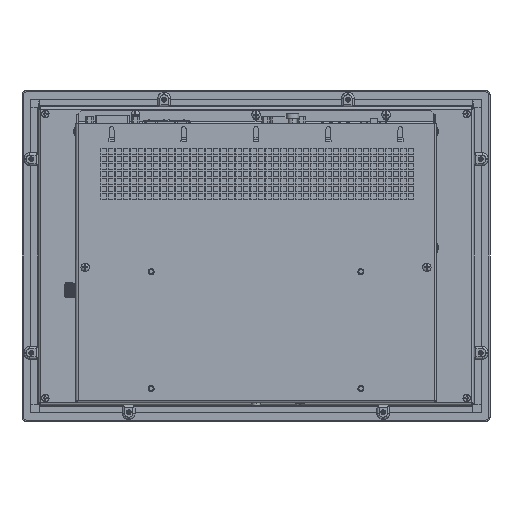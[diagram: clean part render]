
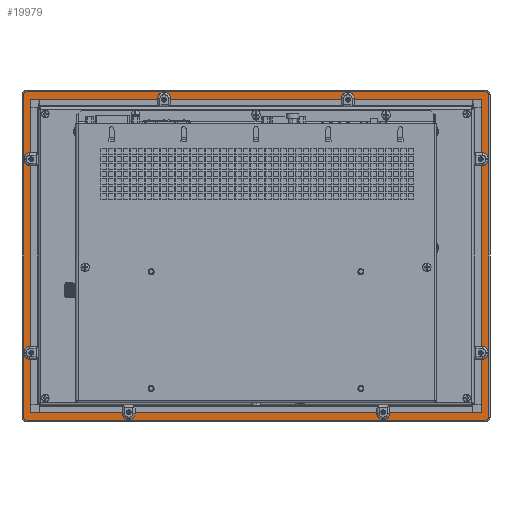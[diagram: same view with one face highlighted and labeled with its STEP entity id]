
A CAD part, front view. The second image highlights one B-rep face of the part: STEP entity #19979.
In plain terms, the highlighted planar face has unit normal (0, -1, 0).
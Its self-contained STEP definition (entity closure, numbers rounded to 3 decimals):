
#17958=CARTESIAN_POINT('',(162.5,0.5,-109.));
#17959=DIRECTION('',(0.,1.,0.));
#17960=DIRECTION('',(1.,0.,0.));
#17961=AXIS2_PLACEMENT_3D('',#17958,#17959,#17960);
#17963=DIRECTION('',(-1.,0.,0.));
#17964=VECTOR('',#17963,325.);
#17965=CARTESIAN_POINT('',(162.5,0.5,-111.));
#17966=LINE('',#17965,#17964);
#17967=CARTESIAN_POINT('',(-162.5,0.5,-109.));
#17968=DIRECTION('',(0.,1.,0.));
#17969=DIRECTION('',(0.,0.,-1.));
#17970=AXIS2_PLACEMENT_3D('',#17967,#17968,#17969);
#17972=DIRECTION('',(0.,0.,1.));
#17973=VECTOR('',#17972,228.);
#17974=CARTESIAN_POINT('',(-164.5,0.5,-109.));
#17975=LINE('',#17974,#17973);
#17976=CARTESIAN_POINT('',(-162.5,0.5,119.));
#17977=DIRECTION('',(0.,1.,0.));
#17978=DIRECTION('',(-1.,0.,0.));
#17979=AXIS2_PLACEMENT_3D('',#17976,#17977,#17978);
#17981=DIRECTION('',(1.,0.,0.));
#17982=VECTOR('',#17981,325.);
#17983=CARTESIAN_POINT('',(-162.5,0.5,121.));
#17984=LINE('',#17983,#17982);
#17985=CARTESIAN_POINT('',(162.5,0.5,119.));
#17986=DIRECTION('',(0.,1.,0.));
#17987=DIRECTION('',(0.,0.,1.));
#17988=AXIS2_PLACEMENT_3D('',#17985,#17986,#17987);
#17990=DIRECTION('',(0.,0.,-1.));
#17991=VECTOR('',#17990,228.);
#17992=CARTESIAN_POINT('',(164.5,0.5,119.));
#17993=LINE('',#17992,#17991);
#17994=CARTESIAN_POINT('',(158.5,0.5,-105.));
#17995=DIRECTION('',(0.,-1.,0.));
#17996=DIRECTION('',(0.,0.,-1.));
#17997=AXIS2_PLACEMENT_3D('',#17994,#17995,#17996);
#17999=DIRECTION('',(0.,0.,1.));
#18000=VECTOR('',#17999,220.);
#18001=CARTESIAN_POINT('',(159.5,0.5,-105.));
#18002=LINE('',#18001,#18000);
#18003=CARTESIAN_POINT('',(158.5,0.5,115.));
#18004=DIRECTION('',(0.,-1.,0.));
#18005=DIRECTION('',(1.,0.,0.));
#18006=AXIS2_PLACEMENT_3D('',#18003,#18004,#18005);
#18008=DIRECTION('',(-1.,0.,0.));
#18009=VECTOR('',#18008,317.);
#18010=CARTESIAN_POINT('',(158.5,0.5,116.));
#18011=LINE('',#18010,#18009);
#18012=CARTESIAN_POINT('',(-158.5,0.5,115.));
#18013=DIRECTION('',(0.,-1.,0.));
#18014=DIRECTION('',(0.,0.,1.));
#18015=AXIS2_PLACEMENT_3D('',#18012,#18013,#18014);
#18017=DIRECTION('',(0.,0.,-1.));
#18018=VECTOR('',#18017,220.);
#18019=CARTESIAN_POINT('',(-159.5,0.5,115.));
#18020=LINE('',#18019,#18018);
#18021=CARTESIAN_POINT('',(-158.5,0.5,-105.));
#18022=DIRECTION('',(0.,-1.,0.));
#18023=DIRECTION('',(-1.,0.,0.));
#18024=AXIS2_PLACEMENT_3D('',#18021,#18022,#18023);
#18026=DIRECTION('',(1.,0.,0.));
#18027=VECTOR('',#18026,317.);
#18028=CARTESIAN_POINT('',(-158.5,0.5,-106.));
#18029=LINE('',#18028,#18027);
#18953=CARTESIAN_POINT('',(164.5,0.5,-109.));
#18954=CARTESIAN_POINT('',(162.5,0.5,-111.));
#18955=VERTEX_POINT('',#18953);
#18956=VERTEX_POINT('',#18954);
#18957=CARTESIAN_POINT('',(164.5,0.5,119.));
#18958=VERTEX_POINT('',#18957);
#18959=CARTESIAN_POINT('',(162.5,0.5,121.));
#18960=VERTEX_POINT('',#18959);
#18961=CARTESIAN_POINT('',(-162.5,0.5,121.));
#18962=VERTEX_POINT('',#18961);
#18963=CARTESIAN_POINT('',(-164.5,0.5,119.));
#18964=VERTEX_POINT('',#18963);
#18965=CARTESIAN_POINT('',(-164.5,0.5,-109.));
#18966=VERTEX_POINT('',#18965);
#18967=CARTESIAN_POINT('',(-162.5,0.5,-111.));
#18968=VERTEX_POINT('',#18967);
#19095=CARTESIAN_POINT('',(158.5,0.5,-106.));
#19096=CARTESIAN_POINT('',(159.5,0.5,-105.));
#19097=VERTEX_POINT('',#19095);
#19098=VERTEX_POINT('',#19096);
#19099=CARTESIAN_POINT('',(159.5,0.5,115.));
#19100=VERTEX_POINT('',#19099);
#19101=CARTESIAN_POINT('',(158.5,0.5,116.));
#19102=VERTEX_POINT('',#19101);
#19103=CARTESIAN_POINT('',(-158.5,0.5,116.));
#19104=VERTEX_POINT('',#19103);
#19105=CARTESIAN_POINT('',(-159.5,0.5,115.));
#19106=VERTEX_POINT('',#19105);
#19107=CARTESIAN_POINT('',(-159.5,0.5,-105.));
#19108=VERTEX_POINT('',#19107);
#19109=CARTESIAN_POINT('',(-158.5,0.5,-106.));
#19110=VERTEX_POINT('',#19109);
#19942=CARTESIAN_POINT('',(0.,0.5,0.));
#19943=DIRECTION('',(0.,-1.,0.));
#19944=DIRECTION('',(-1.,0.,0.));
#19945=AXIS2_PLACEMENT_3D('',#19942,#19943,#19944);
#19946=PLANE('',#19945);
#19948=ORIENTED_EDGE('',*,*,#19947,.T.);
#19950=ORIENTED_EDGE('',*,*,#19949,.T.);
#19952=ORIENTED_EDGE('',*,*,#19951,.T.);
#19954=ORIENTED_EDGE('',*,*,#19953,.T.);
#19956=ORIENTED_EDGE('',*,*,#19955,.T.);
#19958=ORIENTED_EDGE('',*,*,#19957,.T.);
#19960=ORIENTED_EDGE('',*,*,#19959,.T.);
#19962=ORIENTED_EDGE('',*,*,#19961,.T.);
#19963=EDGE_LOOP('',(#19948,#19950,#19952,#19954,#19956,#19958,#19960,#19962));
#19964=FACE_OUTER_BOUND('',#19963,.F.);
#19965=ORIENTED_EDGE('',*,*,#19404,.T.);
#19967=ORIENTED_EDGE('',*,*,#19966,.T.);
#19968=ORIENTED_EDGE('',*,*,#19427,.T.);
#19970=ORIENTED_EDGE('',*,*,#19969,.T.);
#19971=ORIENTED_EDGE('',*,*,#19450,.T.);
#19973=ORIENTED_EDGE('',*,*,#19972,.T.);
#19974=ORIENTED_EDGE('',*,*,#19473,.T.);
#19976=ORIENTED_EDGE('',*,*,#19975,.T.);
#19977=EDGE_LOOP('',(#19965,#19967,#19968,#19970,#19971,#19973,#19974,#19976));
#19978=FACE_BOUND('',#19977,.F.);
#17962=CIRCLE('',#17961,2.);
#17971=CIRCLE('',#17970,2.);
#17980=CIRCLE('',#17979,2.);
#17989=CIRCLE('',#17988,2.);
#17998=CIRCLE('',#17997,1.);
#18007=CIRCLE('',#18006,1.);
#18016=CIRCLE('',#18015,1.);
#18025=CIRCLE('',#18024,1.);
#19404=EDGE_CURVE('',#19097,#19098,#17998,.T.);
#19427=EDGE_CURVE('',#19100,#19102,#18007,.T.);
#19450=EDGE_CURVE('',#19104,#19106,#18016,.T.);
#19473=EDGE_CURVE('',#19108,#19110,#18025,.T.);
#19947=EDGE_CURVE('',#18955,#18956,#17962,.T.);
#19949=EDGE_CURVE('',#18956,#18968,#17966,.T.);
#19951=EDGE_CURVE('',#18968,#18966,#17971,.T.);
#19953=EDGE_CURVE('',#18966,#18964,#17975,.T.);
#19955=EDGE_CURVE('',#18964,#18962,#17980,.T.);
#19957=EDGE_CURVE('',#18962,#18960,#17984,.T.);
#19959=EDGE_CURVE('',#18960,#18958,#17989,.T.);
#19961=EDGE_CURVE('',#18958,#18955,#17993,.T.);
#19966=EDGE_CURVE('',#19098,#19100,#18002,.T.);
#19969=EDGE_CURVE('',#19102,#19104,#18011,.T.);
#19972=EDGE_CURVE('',#19106,#19108,#18020,.T.);
#19975=EDGE_CURVE('',#19110,#19097,#18029,.T.);
#19979=ADVANCED_FACE('',(#19964,#19978),#19946,.T.);
